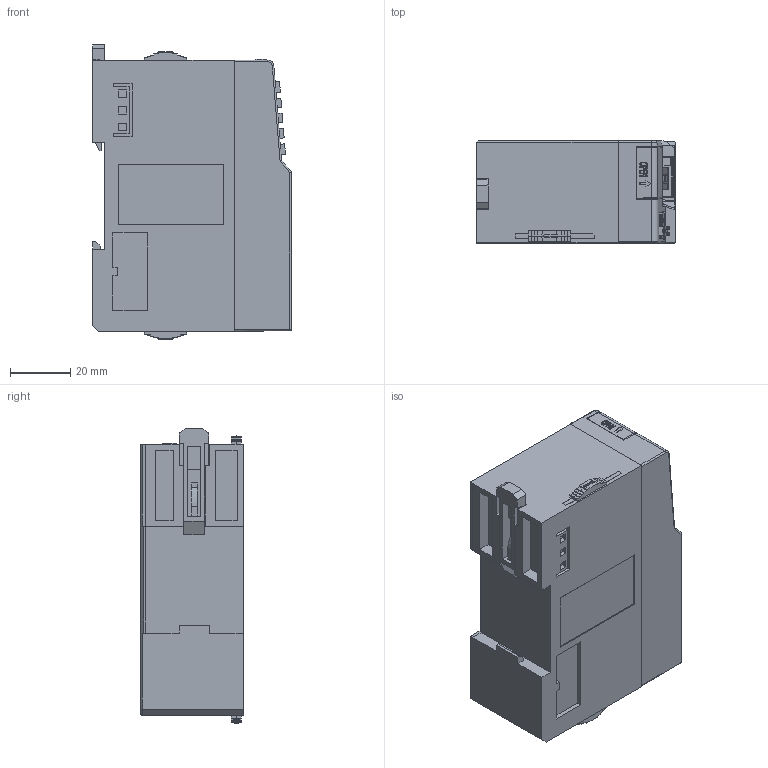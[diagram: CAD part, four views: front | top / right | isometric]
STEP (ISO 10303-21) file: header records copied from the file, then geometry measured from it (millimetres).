
FILE_DESCRIPTION(/* description */ (''),/* implementation_level */ '2;1');
FILE_NAME(/* name */ 'EX-ECPN适配器-带升级口.stp',/* time_stamp */ '2022-06-13T15:18:52+08:00',/* author */ (''),/* organization */ (''),/* preprocessor_version */ 'ST-DEVELOPER v16',/* originating_system */ 'SIEMENS PLM Software NX 10.0',/* authorisation */ '');
FILE_SCHEMA (('AP203_CONFIGURATION_CONTROLLED_3D_DESIGN_OF_MECHANICAL_PARTS_AND_ASSEMBLIES_MIM_LF { 1 0 10303 403 2 1 2}'));
Products named in the file (1): 73494CB0AE88eaws
Bounding box: 66 x 34 x 97.82 mm (x, y, z)
Volume: 177898.9 mm3; surface area: 47350.6 mm2
Topology: 12 solids, 13 shells, 2474 faces, 6716 edges, 4357 vertices
Faces by surface type: plane 1816, cylinder 433, bspline 105, cone 50, extrusion 46, sphere 11, torus 9, revolution 4
Full cylindrical faces by diameter (mm): 1.2 x5, 2 x1, 3.4 x1
Entity records: 80546 total; most frequent: CARTESIAN_POINT 18513, ORIENTED_EDGE 13382, DIRECTION 11934, EDGE_CURVE 6691, VECTOR 5334, LINE 5288, VERTEX_POINT 4355, AXIS2_PLACEMENT_3D 3298
